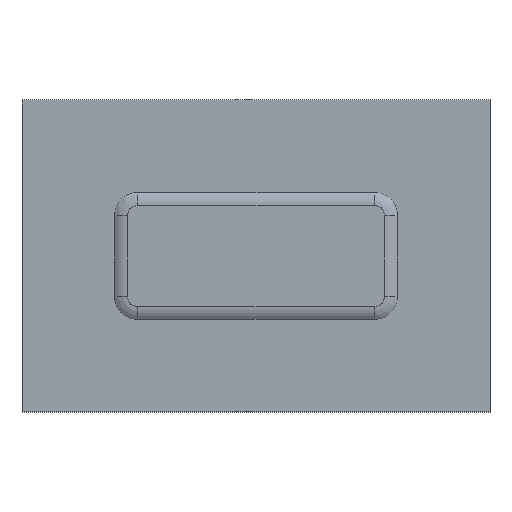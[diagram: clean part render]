
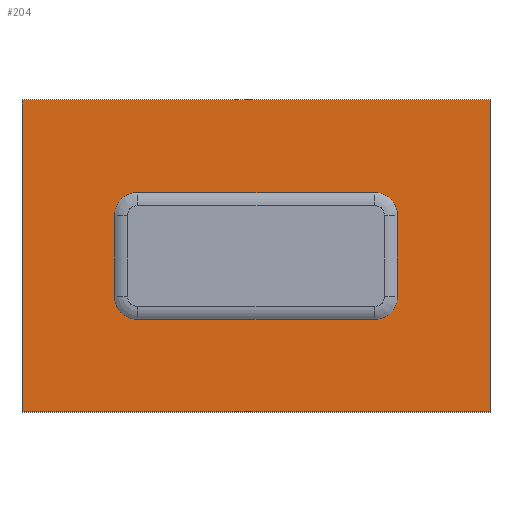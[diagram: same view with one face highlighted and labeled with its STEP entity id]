
A CAD part, top view. The second image highlights one B-rep face of the part: STEP entity #204.
In plain terms, the highlighted planar face has unit normal (0, 0, 1).
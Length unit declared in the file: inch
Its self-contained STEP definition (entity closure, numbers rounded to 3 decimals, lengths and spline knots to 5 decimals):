
#26=CARTESIAN_POINT('',(1.875,-8.375,20.));
#27=VERTEX_POINT('',#26);
#34=CARTESIAN_POINT('',(1.875,-6.375,20.));
#35=VERTEX_POINT('',#34);
#36=CARTESIAN_POINT('',(1.875,-9.12435,20.));
#37=DIRECTION('',(0.,1.,0.));
#38=VECTOR('',#37,1.);
#39=LINE('',#36,#38);
#40=EDGE_CURVE('',#27,#35,#39,.T.);
#65=CARTESIAN_POINT('',(4.875,-6.375,20.));
#66=VERTEX_POINT('',#65);
#67=CARTESIAN_POINT('',(-16.59913,-6.375,20.));
#68=DIRECTION('',(-1.,0.,0.));
#69=VECTOR('',#68,1.);
#70=LINE('',#67,#69);
#71=EDGE_CURVE('',#66,#35,#70,.T.);
#95=ORIENTED_EDGE('',*,*,#40,.F.);
#96=CARTESIAN_POINT('',(4.875,-8.375,20.));
#97=VERTEX_POINT('',#96);
#98=CARTESIAN_POINT('',(5.5307,-8.375,20.));
#99=DIRECTION('',(1.,0.,0.));
#100=VECTOR('',#99,1.);
#101=LINE('',#98,#100);
#102=EDGE_CURVE('',#27,#97,#101,.T.);
#103=ORIENTED_EDGE('',*,*,#102,.T.);
#104=CARTESIAN_POINT('',(4.875,0.81252,20.));
#105=DIRECTION('',(0.,1.,0.));
#106=VECTOR('',#105,1.);
#107=LINE('',#104,#106);
#108=EDGE_CURVE('',#97,#66,#107,.T.);
#109=ORIENTED_EDGE('',*,*,#108,.T.);
#110=ORIENTED_EDGE('',*,*,#71,.T.);
#111=EDGE_LOOP('',(#95,#103,#109,#110));
#112=FACE_OUTER_BOUND('',#111,.T.);
#113=CARTESIAN_POINT('',(2.61691,-6.9689,20.));
#114=VERTEX_POINT('',#113);
#115=CARTESIAN_POINT('',(2.4689,-7.11691,20.));
#116=VERTEX_POINT('',#115);
#117=CARTESIAN_POINT('',(2.61691,-6.9689,20.));
#118=CARTESIAN_POINT('',(2.59995,-6.9689,20.));
#119=CARTESIAN_POINT('',(2.56838,-6.97401,20.));
#120=CARTESIAN_POINT('',(2.52721,-6.99468,20.));
#121=CARTESIAN_POINT('',(2.49467,-7.02722,20.));
#122=CARTESIAN_POINT('',(2.47401,-7.06838,20.));
#123=CARTESIAN_POINT('',(2.4689,-7.09996,20.));
#124=CARTESIAN_POINT('',(2.4689,-7.11691,20.));
#125=B_SPLINE_CURVE_WITH_KNOTS('',3,(#117,#118,#119,#120,#121,#122,#123,#124),.UNSPECIFIED.,.F.,.F.,(4,1,1,1,1,4),(0.,0.2,0.4,0.6,0.8,1.),.UNSPECIFIED.);
#126=EDGE_CURVE('',#114,#116,#125,.T.);
#127=ORIENTED_EDGE('',*,*,#126,.F.);
#128=CARTESIAN_POINT('',(4.13309,-6.9689,20.));
#129=VERTEX_POINT('',#128);
#130=CARTESIAN_POINT('',(4.13309,-6.9689,20.));
#131=DIRECTION('',(-1.,0.,0.));
#132=VECTOR('',#131,1.51617);
#133=LINE('',#130,#132);
#134=EDGE_CURVE('',#129,#114,#133,.T.);
#135=ORIENTED_EDGE('',*,*,#134,.F.);
#136=CARTESIAN_POINT('',(4.2811,-7.11691,20.));
#137=VERTEX_POINT('',#136);
#138=CARTESIAN_POINT('',(4.2811,-7.11691,20.));
#139=CARTESIAN_POINT('',(4.2811,-7.09995,20.));
#140=CARTESIAN_POINT('',(4.27599,-7.06838,20.));
#141=CARTESIAN_POINT('',(4.25532,-7.02721,20.));
#142=CARTESIAN_POINT('',(4.22278,-6.99467,20.));
#143=CARTESIAN_POINT('',(4.18162,-6.97401,20.));
#144=CARTESIAN_POINT('',(4.15004,-6.9689,20.));
#145=CARTESIAN_POINT('',(4.13309,-6.9689,20.));
#146=B_SPLINE_CURVE_WITH_KNOTS('',3,(#138,#139,#140,#141,#142,#143,#144,#145),.UNSPECIFIED.,.F.,.F.,(4,1,1,1,1,4),(0.,0.2,0.4,0.6,0.8,1.),.UNSPECIFIED.);
#147=EDGE_CURVE('',#137,#129,#146,.T.);
#148=ORIENTED_EDGE('',*,*,#147,.F.);
#149=CARTESIAN_POINT('',(4.2811,-7.63309,20.));
#150=VERTEX_POINT('',#149);
#151=CARTESIAN_POINT('',(4.2811,-7.63309,20.));
#152=DIRECTION('',(0.,1.,0.));
#153=VECTOR('',#152,0.51617);
#154=LINE('',#151,#153);
#155=EDGE_CURVE('',#150,#137,#154,.T.);
#156=ORIENTED_EDGE('',*,*,#155,.F.);
#157=CARTESIAN_POINT('',(4.13309,-7.7811,20.));
#158=VERTEX_POINT('',#157);
#159=CARTESIAN_POINT('',(4.13309,-7.7811,20.));
#160=CARTESIAN_POINT('',(4.15005,-7.7811,20.));
#161=CARTESIAN_POINT('',(4.18162,-7.77599,20.));
#162=CARTESIAN_POINT('',(4.22279,-7.75532,20.));
#163=CARTESIAN_POINT('',(4.25533,-7.72278,20.));
#164=CARTESIAN_POINT('',(4.27599,-7.68162,20.));
#165=CARTESIAN_POINT('',(4.2811,-7.65004,20.));
#166=CARTESIAN_POINT('',(4.2811,-7.63309,20.));
#167=B_SPLINE_CURVE_WITH_KNOTS('',3,(#159,#160,#161,#162,#163,#164,#165,#166),.UNSPECIFIED.,.F.,.F.,(4,1,1,1,1,4),(0.,0.2,0.4,0.6,0.8,1.),.UNSPECIFIED.);
#168=EDGE_CURVE('',#158,#150,#167,.T.);
#169=ORIENTED_EDGE('',*,*,#168,.F.);
#170=CARTESIAN_POINT('',(2.61691,-7.7811,20.));
#171=VERTEX_POINT('',#170);
#172=CARTESIAN_POINT('',(2.61691,-7.7811,20.));
#173=DIRECTION('',(1.,0.,0.));
#174=VECTOR('',#173,1.51617);
#175=LINE('',#172,#174);
#176=EDGE_CURVE('',#171,#158,#175,.T.);
#177=ORIENTED_EDGE('',*,*,#176,.F.);
#178=CARTESIAN_POINT('',(2.4689,-7.63309,20.));
#179=VERTEX_POINT('',#178);
#180=CARTESIAN_POINT('',(2.4689,-7.63309,20.));
#181=CARTESIAN_POINT('',(2.4689,-7.65005,20.));
#182=CARTESIAN_POINT('',(2.47401,-7.68162,20.));
#183=CARTESIAN_POINT('',(2.49468,-7.72279,20.));
#184=CARTESIAN_POINT('',(2.52722,-7.75533,20.));
#185=CARTESIAN_POINT('',(2.56838,-7.77599,20.));
#186=CARTESIAN_POINT('',(2.59996,-7.7811,20.));
#187=CARTESIAN_POINT('',(2.61691,-7.7811,20.));
#188=B_SPLINE_CURVE_WITH_KNOTS('',3,(#180,#181,#182,#183,#184,#185,#186,#187),.UNSPECIFIED.,.F.,.F.,(4,1,1,1,1,4),(0.,0.2,0.4,0.6,0.8,1.),.UNSPECIFIED.);
#189=EDGE_CURVE('',#179,#171,#188,.T.);
#190=ORIENTED_EDGE('',*,*,#189,.F.);
#191=CARTESIAN_POINT('',(2.4689,-7.11691,20.));
#192=DIRECTION('',(0.,-1.,0.));
#193=VECTOR('',#192,0.51617);
#194=LINE('',#191,#193);
#195=EDGE_CURVE('',#116,#179,#194,.T.);
#196=ORIENTED_EDGE('',*,*,#195,.F.);
#197=EDGE_LOOP('',(#127,#135,#148,#156,#169,#177,#190,#196));
#198=FACE_BOUND('',#197,.T.);
#199=CARTESIAN_POINT('',(-3.375,-4.375,20.));
#200=DIRECTION('',(0.,0.,1.));
#201=DIRECTION('',(0.,-1.,0.));
#202=AXIS2_PLACEMENT_3D('',#199,#200,#201);
#203=PLANE('',#202);
#204=ADVANCED_FACE('',(#112,#198),#203,.T.);
